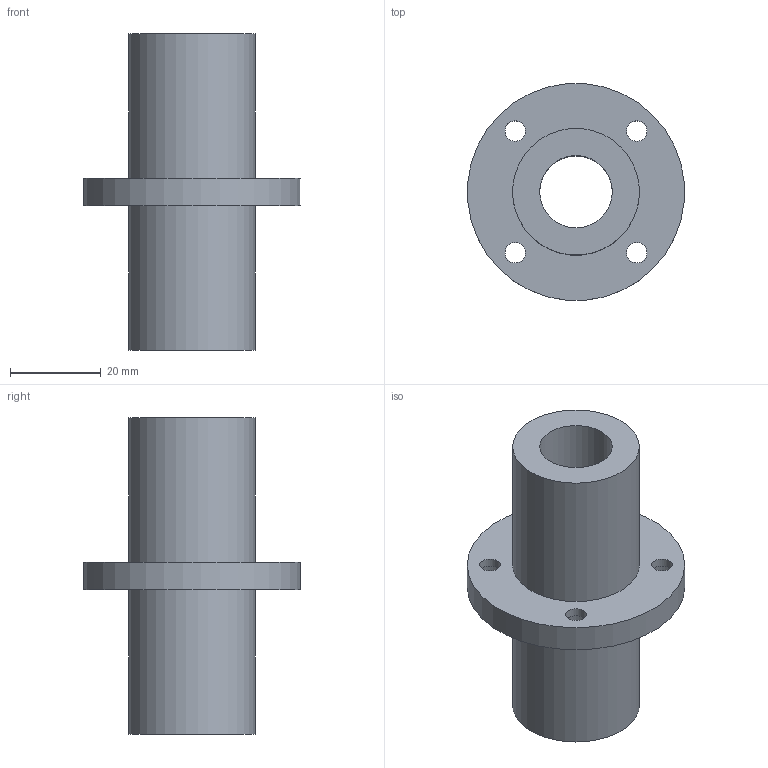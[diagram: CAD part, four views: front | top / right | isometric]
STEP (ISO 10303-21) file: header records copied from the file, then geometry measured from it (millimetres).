
FILE_DESCRIPTION(/* description */ (''),/* implementation_level */ '2;1');
FILE_NAME(/* name */ 'LMFM16LUU',/* time_stamp */ '2019-07-03T11:00:54+02:00',/* author */ ('VĂ©gh MĂˇtĂ©'),/* organization */ ('Bearing Kft'),/* preprocessor_version */ 'ST-DEVELOPER v16.7',/* originating_system */ 'DEX',/* authorisation */ $);
FILE_SCHEMA (('AUTOMOTIVE_DESIGN {1 0 10303 214 3 1 1}'));
Length unit declared in the file: millimetre
Products named in the file (1): LMFM16LUU
Bounding box: 47.82 x 47.82 x 70 mm (x, y, z)
Volume: 35342.8 mm3; surface area: 13657.5 mm2
Topology: 1 solids, 1 shells, 341 faces, 859 edges, 574 vertices
Faces by surface type: plane 267, bspline 59, cylinder 15
Full cylindrical faces by diameter (mm): 4.5 x4, 7.5 x4, 16 x1, 28 x2, 48 x1
Entity records: 12835 total; most frequent: CARTESIAN_POINT 5022, ORIENTED_EDGE 1682, DIRECTION 1319, EDGE_CURVE 841, LINE 693, VECTOR 693, VERTEX_POINT 570, EDGE_LOOP 419
